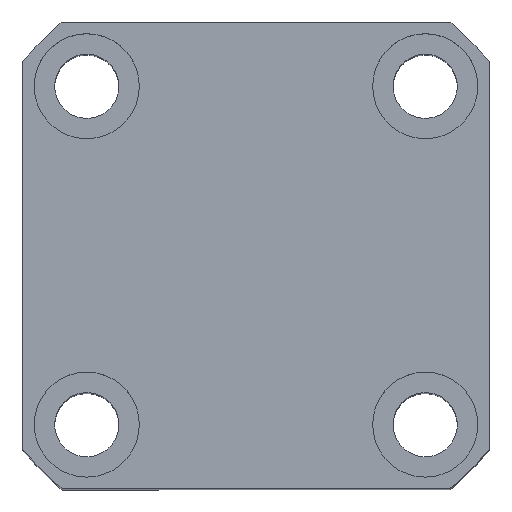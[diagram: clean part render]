
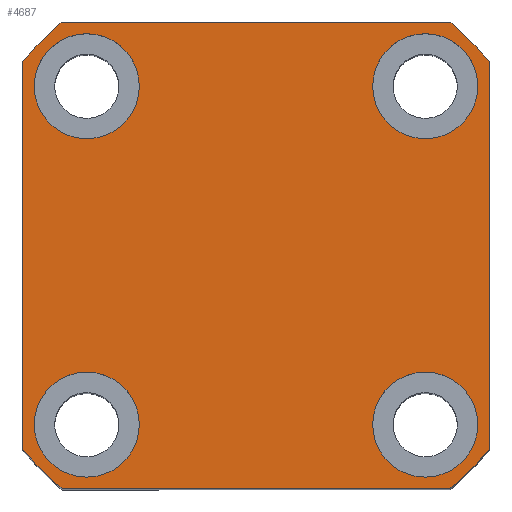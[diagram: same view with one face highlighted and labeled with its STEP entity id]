
A CAD part, top view. The second image highlights one B-rep face of the part: STEP entity #4687.
In plain terms, the highlighted planar face has unit normal (0, 0, 1).
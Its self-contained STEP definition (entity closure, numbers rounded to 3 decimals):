
#48 = VERTEX_POINT ( 'NONE', #7474 ) ;
#176 = DIRECTION ( 'NONE',  ( 1., 0., 0. ) ) ;
#324 = LINE ( 'NONE', #9050, #11310 ) ;
#472 = CARTESIAN_POINT ( 'NONE',  ( 0., 0., 60. ) ) ;
#601 = AXIS2_PLACEMENT_3D ( 'NONE', #2911, #8469, #11738 ) ;
#800 = FACE_BOUND ( 'NONE', #8128, .T. ) ;
#805 = ORIENTED_EDGE ( 'NONE', *, *, #10768, .F. ) ;
#853 = DIRECTION ( 'NONE',  ( 0., 0., 1. ) ) ;
#896 = ORIENTED_EDGE ( 'NONE', *, *, #13457, .T. ) ;
#936 = DIRECTION ( 'NONE',  ( 0., 0., 1. ) ) ;
#991 = PLANE ( 'NONE',  #9043 ) ;
#1123 = CIRCLE ( 'NONE', #3434, 9. ) ;
#1230 = VERTEX_POINT ( 'NONE', #5941 ) ;
#1239 = CARTESIAN_POINT ( 'NONE',  ( 29., -29., 60. ) ) ;
#1346 = CIRCLE ( 'NONE', #10157, 9. ) ;
#1629 = VERTEX_POINT ( 'NONE', #2003 ) ;
#1860 = CARTESIAN_POINT ( 'NONE',  ( 0., 0., 60. ) ) ;
#1881 = EDGE_CURVE ( 'NONE', #2561, #11906, #5953, .T. ) ;
#1931 = DIRECTION ( 'NONE',  ( 0., 0., 1. ) ) ;
#2003 = CARTESIAN_POINT ( 'NONE',  ( -38., 29., 60. ) ) ;
#2039 = DIRECTION ( 'NONE',  ( 1., 0., 0. ) ) ;
#2092 = CARTESIAN_POINT ( 'NONE',  ( 20., -29., 60. ) ) ;
#2393 = CARTESIAN_POINT ( 'NONE',  ( -29., 29., 60. ) ) ;
#2561 = VERTEX_POINT ( 'NONE', #2092 ) ;
#2911 = CARTESIAN_POINT ( 'NONE',  ( 0., 0., 60. ) ) ;
#3280 = VERTEX_POINT ( 'NONE', #13015 ) ;
#3434 = AXIS2_PLACEMENT_3D ( 'NONE', #13992, #8625, #7422 ) ;
#3624 = CARTESIAN_POINT ( 'NONE',  ( -33.226, -40., 60. ) ) ;
#3672 = DIRECTION ( 'NONE',  ( 0., 0., 1. ) ) ;
#3754 = CARTESIAN_POINT ( 'NONE',  ( 29., 29., 60. ) ) ;
#3812 = VERTEX_POINT ( 'NONE', #5670 ) ;
#3882 = CIRCLE ( 'NONE', #9890, 52. ) ;
#3892 = CIRCLE ( 'NONE', #601, 52. ) ;
#3960 = AXIS2_PLACEMENT_3D ( 'NONE', #2393, #10115, #6727 ) ;
#4052 = CARTESIAN_POINT ( 'NONE',  ( -29., -29., 60. ) ) ;
#4283 = VERTEX_POINT ( 'NONE', #14081 ) ;
#4352 = VERTEX_POINT ( 'NONE', #5510 ) ;
#4386 = CARTESIAN_POINT ( 'NONE',  ( 20., 29., 60. ) ) ;
#4687 = ADVANCED_FACE ( 'NONE', ( #12623, #9203, #800, #12800, #12292 ), #991, .T. ) ;
#4865 = DIRECTION ( 'NONE',  ( 1., 0., 0. ) ) ;
#4881 = EDGE_LOOP ( 'NONE', ( #7048, #7006 ) ) ;
#5275 = ORIENTED_EDGE ( 'NONE', *, *, #8291, .T. ) ;
#5364 = DIRECTION ( 'NONE',  ( 1., 0., 0. ) ) ;
#5510 = CARTESIAN_POINT ( 'NONE',  ( 38., 29., 60. ) ) ;
#5557 = ORIENTED_EDGE ( 'NONE', *, *, #11360, .T. ) ;
#5567 = CIRCLE ( 'NONE', #9235, 9. ) ;
#5640 = AXIS2_PLACEMENT_3D ( 'NONE', #1860, #9511, #12581 ) ;
#5670 = CARTESIAN_POINT ( 'NONE',  ( -20., -29., 60. ) ) ;
#5722 = DIRECTION ( 'NONE',  ( 1., 0., 0. ) ) ;
#5902 = CARTESIAN_POINT ( 'NONE',  ( -33.226, 40., 60. ) ) ;
#5921 = VERTEX_POINT ( 'NONE', #7077 ) ;
#5941 = CARTESIAN_POINT ( 'NONE',  ( -20., 29., 60. ) ) ;
#5953 = CIRCLE ( 'NONE', #6707, 9. ) ;
#6199 = CARTESIAN_POINT ( 'NONE',  ( -40., 33.226, 60. ) ) ;
#6243 = LINE ( 'NONE', #11270, #13815 ) ;
#6289 = DIRECTION ( 'NONE',  ( 1., 0., 0. ) ) ;
#6347 = EDGE_CURVE ( 'NONE', #3812, #48, #5567, .T. ) ;
#6399 = VERTEX_POINT ( 'NONE', #6199 ) ;
#6592 = VERTEX_POINT ( 'NONE', #11302 ) ;
#6593 = CIRCLE ( 'NONE', #12794, 9. ) ;
#6653 = AXIS2_PLACEMENT_3D ( 'NONE', #6989, #9202, #6949 ) ;
#6707 = AXIS2_PLACEMENT_3D ( 'NONE', #11123, #12152, #5722 ) ;
#6713 = DIRECTION ( 'NONE',  ( 0., 0., 1. ) ) ;
#6716 = DIRECTION ( 'NONE',  ( -1., 0., 0. ) ) ;
#6727 = DIRECTION ( 'NONE',  ( 1., 0., 0. ) ) ;
#6832 = CIRCLE ( 'NONE', #7766, 9. ) ;
#6949 = DIRECTION ( 'NONE',  ( 1., 0., 0. ) ) ;
#6989 = CARTESIAN_POINT ( 'NONE',  ( 0., 0., 60. ) ) ;
#7006 = ORIENTED_EDGE ( 'NONE', *, *, #11864, .F. ) ;
#7020 = VECTOR ( 'NONE', #12626, 1000. ) ;
#7048 = ORIENTED_EDGE ( 'NONE', *, *, #6347, .F. ) ;
#7077 = CARTESIAN_POINT ( 'NONE',  ( -33.226, -40., 60. ) ) ;
#7090 = VERTEX_POINT ( 'NONE', #4386 ) ;
#7172 = LINE ( 'NONE', #9319, #11494 ) ;
#7422 = DIRECTION ( 'NONE',  ( 1., 0., 0. ) ) ;
#7474 = CARTESIAN_POINT ( 'NONE',  ( -38., -29., 60. ) ) ;
#7486 = CARTESIAN_POINT ( 'NONE',  ( 0., 0., 60. ) ) ;
#7612 = EDGE_CURVE ( 'NONE', #12936, #6592, #7691, .T. ) ;
#7691 = CIRCLE ( 'NONE', #6653, 52. ) ;
#7723 = ORIENTED_EDGE ( 'NONE', *, *, #8817, .T. ) ;
#7766 = AXIS2_PLACEMENT_3D ( 'NONE', #8398, #10472, #9454 ) ;
#7768 = CARTESIAN_POINT ( 'NONE',  ( 38., -29., 60. ) ) ;
#7774 = EDGE_LOOP ( 'NONE', ( #11482, #9468 ) ) ;
#7946 = DIRECTION ( 'NONE',  ( 0., 1., 0. ) ) ;
#8080 = ORIENTED_EDGE ( 'NONE', *, *, #1881, .F. ) ;
#8120 = EDGE_CURVE ( 'NONE', #1629, #1230, #12141, .T. ) ;
#8128 = EDGE_LOOP ( 'NONE', ( #805, #8952 ) ) ;
#8291 = EDGE_CURVE ( 'NONE', #3280, #4283, #3892, .T. ) ;
#8398 = CARTESIAN_POINT ( 'NONE',  ( 29., 29., 60. ) ) ;
#8469 = DIRECTION ( 'NONE',  ( 0., 0., 1. ) ) ;
#8625 = DIRECTION ( 'NONE',  ( 0., 0., 1. ) ) ;
#8726 = EDGE_CURVE ( 'NONE', #13850, #6399, #3882, .T. ) ;
#8817 = EDGE_CURVE ( 'NONE', #6592, #3280, #324, .T. ) ;
#8883 = AXIS2_PLACEMENT_3D ( 'NONE', #10795, #1931, #5364 ) ;
#8952 = ORIENTED_EDGE ( 'NONE', *, *, #8120, .F. ) ;
#8986 = ORIENTED_EDGE ( 'NONE', *, *, #8726, .T. ) ;
#9012 = ORIENTED_EDGE ( 'NONE', *, *, #9356, .F. ) ;
#9043 = AXIS2_PLACEMENT_3D ( 'NONE', #7486, #936, #2039 ) ;
#9050 = CARTESIAN_POINT ( 'NONE',  ( 40., 33.226, 60. ) ) ;
#9202 = DIRECTION ( 'NONE',  ( 0., 0., 1. ) ) ;
#9203 = FACE_BOUND ( 'NONE', #4881, .T. ) ;
#9235 = AXIS2_PLACEMENT_3D ( 'NONE', #4052, #853, #6289 ) ;
#9319 = CARTESIAN_POINT ( 'NONE',  ( -40., 33.226, 60. ) ) ;
#9356 = EDGE_CURVE ( 'NONE', #11906, #2561, #1346, .T. ) ;
#9454 = DIRECTION ( 'NONE',  ( 1., 0., 0. ) ) ;
#9468 = ORIENTED_EDGE ( 'NONE', *, *, #13419, .F. ) ;
#9511 = DIRECTION ( 'NONE',  ( 0., 0., 1. ) ) ;
#9660 = ORIENTED_EDGE ( 'NONE', *, *, #13429, .T. ) ;
#9890 = AXIS2_PLACEMENT_3D ( 'NONE', #472, #3672, #11282 ) ;
#9993 = EDGE_LOOP ( 'NONE', ( #5275, #5557, #8986, #896, #13732, #9660, #12239, #7723 ) ) ;
#10115 = DIRECTION ( 'NONE',  ( 0., 0., 1. ) ) ;
#10157 = AXIS2_PLACEMENT_3D ( 'NONE', #1239, #6713, #176 ) ;
#10371 = EDGE_LOOP ( 'NONE', ( #9012, #8080 ) ) ;
#10472 = DIRECTION ( 'NONE',  ( 0., 0., 1. ) ) ;
#10745 = CIRCLE ( 'NONE', #3960, 9. ) ;
#10768 = EDGE_CURVE ( 'NONE', #1230, #1629, #10745, .T. ) ;
#10795 = CARTESIAN_POINT ( 'NONE',  ( -29., 29., 60. ) ) ;
#11123 = CARTESIAN_POINT ( 'NONE',  ( 29., -29., 60. ) ) ;
#11270 = CARTESIAN_POINT ( 'NONE',  ( -33.226, 40., 60. ) ) ;
#11279 = CARTESIAN_POINT ( 'NONE',  ( -40., -33.226, 60. ) ) ;
#11282 = DIRECTION ( 'NONE',  ( 1., 0., 0. ) ) ;
#11302 = CARTESIAN_POINT ( 'NONE',  ( 40., -33.226, 60. ) ) ;
#11310 = VECTOR ( 'NONE', #7946, 1000. ) ;
#11335 = CIRCLE ( 'NONE', #5640, 52. ) ;
#11360 = EDGE_CURVE ( 'NONE', #4283, #13850, #6243, .T. ) ;
#11453 = DIRECTION ( 'NONE',  ( 0., 0., 1. ) ) ;
#11482 = ORIENTED_EDGE ( 'NONE', *, *, #11499, .F. ) ;
#11494 = VECTOR ( 'NONE', #11629, 1000. ) ;
#11499 = EDGE_CURVE ( 'NONE', #4352, #7090, #6593, .T. ) ;
#11629 = DIRECTION ( 'NONE',  ( 0., -1., 0. ) ) ;
#11652 = LINE ( 'NONE', #3624, #7020 ) ;
#11738 = DIRECTION ( 'NONE',  ( 1., 0., 0. ) ) ;
#11864 = EDGE_CURVE ( 'NONE', #48, #3812, #1123, .T. ) ;
#11906 = VERTEX_POINT ( 'NONE', #7768 ) ;
#12141 = CIRCLE ( 'NONE', #8883, 9. ) ;
#12152 = DIRECTION ( 'NONE',  ( 0., 0., 1. ) ) ;
#12239 = ORIENTED_EDGE ( 'NONE', *, *, #7612, .T. ) ;
#12292 = FACE_OUTER_BOUND ( 'NONE', #9993, .T. ) ;
#12581 = DIRECTION ( 'NONE',  ( 1., 0., 0. ) ) ;
#12623 = FACE_BOUND ( 'NONE', #10371, .T. ) ;
#12626 = DIRECTION ( 'NONE',  ( 1., 0., 0. ) ) ;
#12794 = AXIS2_PLACEMENT_3D ( 'NONE', #3754, #11453, #4865 ) ;
#12800 = FACE_BOUND ( 'NONE', #7774, .T. ) ;
#12936 = VERTEX_POINT ( 'NONE', #14012 ) ;
#13015 = CARTESIAN_POINT ( 'NONE',  ( 40., 33.226, 60. ) ) ;
#13231 = VERTEX_POINT ( 'NONE', #11279 ) ;
#13419 = EDGE_CURVE ( 'NONE', #7090, #4352, #6832, .T. ) ;
#13429 = EDGE_CURVE ( 'NONE', #5921, #12936, #11652, .T. ) ;
#13457 = EDGE_CURVE ( 'NONE', #6399, #13231, #7172, .T. ) ;
#13534 = EDGE_CURVE ( 'NONE', #13231, #5921, #11335, .T. ) ;
#13732 = ORIENTED_EDGE ( 'NONE', *, *, #13534, .T. ) ;
#13815 = VECTOR ( 'NONE', #6716, 1000. ) ;
#13850 = VERTEX_POINT ( 'NONE', #5902 ) ;
#13992 = CARTESIAN_POINT ( 'NONE',  ( -29., -29., 60. ) ) ;
#14012 = CARTESIAN_POINT ( 'NONE',  ( 33.226, -40., 60. ) ) ;
#14081 = CARTESIAN_POINT ( 'NONE',  ( 33.226, 40., 60. ) ) ;
